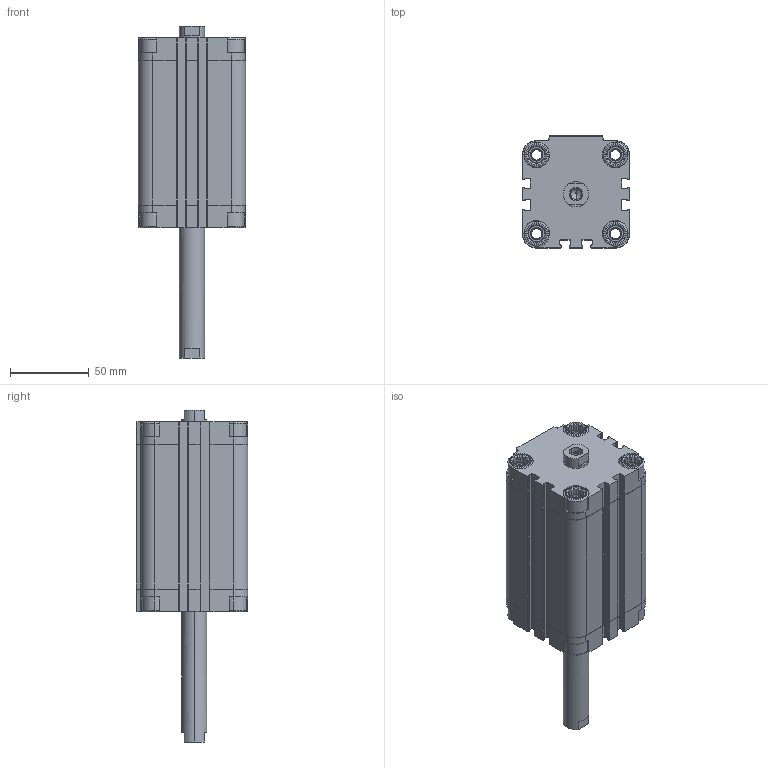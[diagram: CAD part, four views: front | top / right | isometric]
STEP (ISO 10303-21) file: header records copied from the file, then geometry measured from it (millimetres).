
FILE_DESCRIPTION (( 'STEP AP203' ), '1' );
FILE_NAME ('CDVU50-75F-P.STEP', '2020-07-24T18:36:30', ( '' ), ( '' ), 'SwSTEP 2.0', 'SolidWorks 2019', '' );
FILE_SCHEMA (( 'CONFIG_CONTROL_DESIGN' ));
Length unit declared in the file: millimetre
Products named in the file (1): CDVU50-75F-P
Bounding box: 68 x 71 x 210.5 mm (x, y, z)
Volume: 382060.4 mm3; surface area: 102135.1 mm2
Topology: 2 solids, 2 shells, 722 faces, 1928 edges, 1244 vertices
Faces by surface type: plane 422, cylinder 236, cone 48, torus 16
Entity records: 22639 total; most frequent: CARTESIAN_POINT 4463, ORIENTED_EDGE 3840, DIRECTION 3726, EDGE_CURVE 1920, AXIS2_PLACEMENT_3D 1275, VERTEX_POINT 1244, VECTOR 1176, LINE 1176
